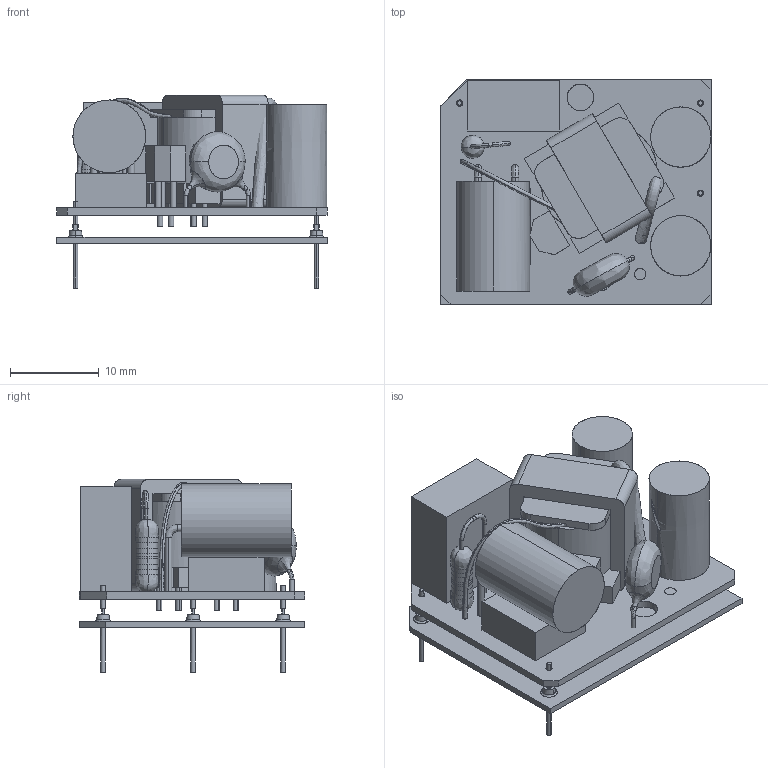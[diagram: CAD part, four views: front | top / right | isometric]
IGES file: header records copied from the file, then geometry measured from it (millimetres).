
Start section: SolidWorks IGES file using analytic representation for surfaces
Global section: file name: C:\Users\ksmith.XPNA\Desktop\VCE\VCE05-P.IGS; native system: SolidWorks 2016; preprocessor: SolidWorks 2016; author: ksmith; date: 170224.154252; units: inch
Bounding box: 30.49 x 25.4 x 21.8 mm (x, y, z)
Surface area: 6561.2 mm2 (no closed solid volume)
Topology: 0 solids, 0 shells, 530 faces, 4624 edges, 4622 vertices
Faces by surface type: bspline 325, revolution 205
